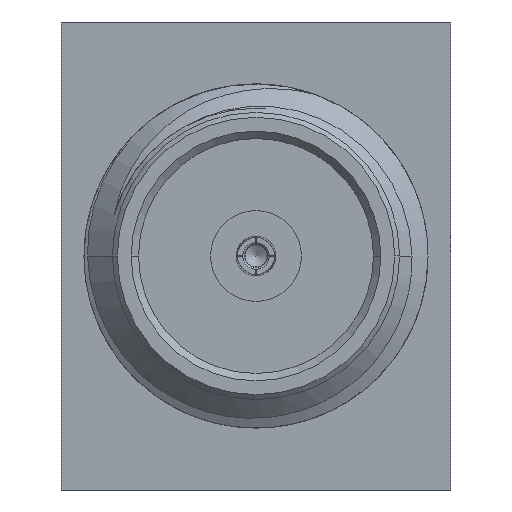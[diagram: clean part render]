
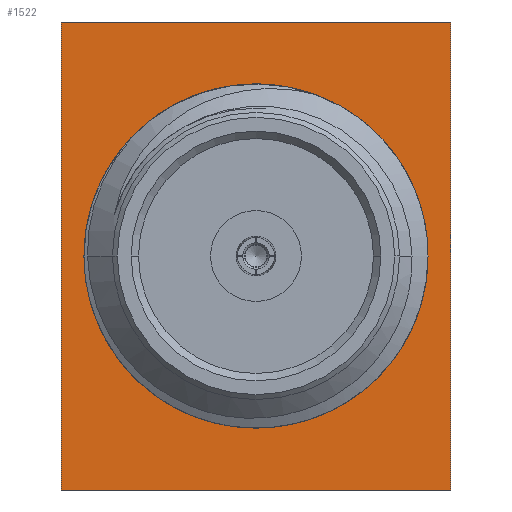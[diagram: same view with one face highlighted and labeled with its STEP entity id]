
A CAD part, left-side view. The second image highlights one B-rep face of the part: STEP entity #1522.
In plain terms, the highlighted planar face has unit normal (-1, 0, 0).
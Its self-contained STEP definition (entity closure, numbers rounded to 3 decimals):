
#175 = AXIS2_PLACEMENT_3D ( 'NONE', #1384, #2213, #917 ) ;
#589 = EDGE_CURVE ( 'NONE', #2920, #2049, #3594, .T. ) ;
#642 = LINE ( 'NONE', #1463, #4269 ) ;
#765 = EDGE_CURVE ( 'NONE', #2049, #2920, #1839, .T. ) ;
#821 = DIRECTION ( 'NONE',  ( -1., 0., 0. ) ) ;
#917 = DIRECTION ( 'NONE',  ( 0., 1., 0. ) ) ;
#1139 = CARTESIAN_POINT ( 'NONE',  ( 10.69, 0., 0. ) ) ;
#1252 = VECTOR ( 'NONE', #3992, 1000. ) ;
#1287 = PLANE ( 'NONE',  #2642 ) ;
#1292 = VECTOR ( 'NONE', #4006, 1000. ) ;
#1316 = CARTESIAN_POINT ( 'NONE',  ( 10.69, 4.675, 0. ) ) ;
#1384 = CARTESIAN_POINT ( 'NONE',  ( 10.69, 0., 0. ) ) ;
#1393 = CARTESIAN_POINT ( 'NONE',  ( 10.69, 3.96, 2.577 ) ) ;
#1450 = EDGE_LOOP ( 'NONE', ( #1829, #3822, #3555, #3707 ) ) ;
#1463 = CARTESIAN_POINT ( 'NONE',  ( 10.69, -3.96, -2.577 ) ) ;
#1468 = DIRECTION ( 'NONE',  ( 0., 1., 0. ) ) ;
#1522 = ADVANCED_FACE ( 'NONE', ( #1695, #1749 ), #1287, .T. ) ;
#1695 = FACE_OUTER_BOUND ( 'NONE', #1450, .T. ) ;
#1749 = FACE_BOUND ( 'NONE', #3936, .T. ) ;
#1829 = ORIENTED_EDGE ( 'NONE', *, *, #3036, .T. ) ;
#1839 = CIRCLE ( 'NONE', #3243, 2.85 ) ;
#1877 = DIRECTION ( 'NONE',  ( 0., 0., 1. ) ) ;
#1903 = VERTEX_POINT ( 'NONE', #3235 ) ;
#2049 = VERTEX_POINT ( 'NONE', #2168 ) ;
#2168 = CARTESIAN_POINT ( 'NONE',  ( 10.69, -2.85, 0. ) ) ;
#2213 = DIRECTION ( 'NONE',  ( 1., 0., 0. ) ) ;
#2478 = ORIENTED_EDGE ( 'NONE', *, *, #765, .T. ) ;
#2484 = EDGE_CURVE ( 'NONE', #1903, #4355, #4260, .T. ) ;
#2549 = CARTESIAN_POINT ( 'NONE',  ( 10.69, -3.96, -4.76 ) ) ;
#2573 = CARTESIAN_POINT ( 'NONE',  ( 10.69, 4.551, -4.76 ) ) ;
#2602 = DIRECTION ( 'NONE',  ( 0., -1., 0. ) ) ;
#2642 = AXIS2_PLACEMENT_3D ( 'NONE', #1316, #821, #5429 ) ;
#2782 = VERTEX_POINT ( 'NONE', #5411 ) ;
#2920 = VERTEX_POINT ( 'NONE', #3455 ) ;
#3036 = EDGE_CURVE ( 'NONE', #4355, #4439, #642, .T. ) ;
#3180 = EDGE_CURVE ( 'NONE', #4439, #2782, #3951, .T. ) ;
#3235 = CARTESIAN_POINT ( 'NONE',  ( 10.69, 3.96, -4.76 ) ) ;
#3243 = AXIS2_PLACEMENT_3D ( 'NONE', #1139, #4846, #1468 ) ;
#3274 = VECTOR ( 'NONE', #2602, 1000. ) ;
#3455 = CARTESIAN_POINT ( 'NONE',  ( 10.69, 2.85, 0. ) ) ;
#3464 = CARTESIAN_POINT ( 'NONE',  ( 10.69, -3.96, 4.76 ) ) ;
#3555 = ORIENTED_EDGE ( 'NONE', *, *, #3903, .T. ) ;
#3594 = CIRCLE ( 'NONE', #175, 2.85 ) ;
#3707 = ORIENTED_EDGE ( 'NONE', *, *, #2484, .T. ) ;
#3822 = ORIENTED_EDGE ( 'NONE', *, *, #3180, .T. ) ;
#3903 = EDGE_CURVE ( 'NONE', #2782, #1903, #5142, .T. ) ;
#3936 = EDGE_LOOP ( 'NONE', ( #4357, #2478 ) ) ;
#3951 = LINE ( 'NONE', #5187, #1292 ) ;
#3992 = DIRECTION ( 'NONE',  ( 0., 0., -1. ) ) ;
#4006 = DIRECTION ( 'NONE',  ( 0., 1., 0. ) ) ;
#4260 = LINE ( 'NONE', #2573, #3274 ) ;
#4269 = VECTOR ( 'NONE', #1877, 1000. ) ;
#4355 = VERTEX_POINT ( 'NONE', #2549 ) ;
#4357 = ORIENTED_EDGE ( 'NONE', *, *, #589, .T. ) ;
#4439 = VERTEX_POINT ( 'NONE', #3464 ) ;
#4846 = DIRECTION ( 'NONE',  ( 1., 0., 0. ) ) ;
#5142 = LINE ( 'NONE', #1393, #1252 ) ;
#5187 = CARTESIAN_POINT ( 'NONE',  ( 10.69, 0.124, 4.76 ) ) ;
#5411 = CARTESIAN_POINT ( 'NONE',  ( 10.69, 3.96, 4.76 ) ) ;
#5429 = DIRECTION ( 'NONE',  ( 0., 0., 1. ) ) ;
